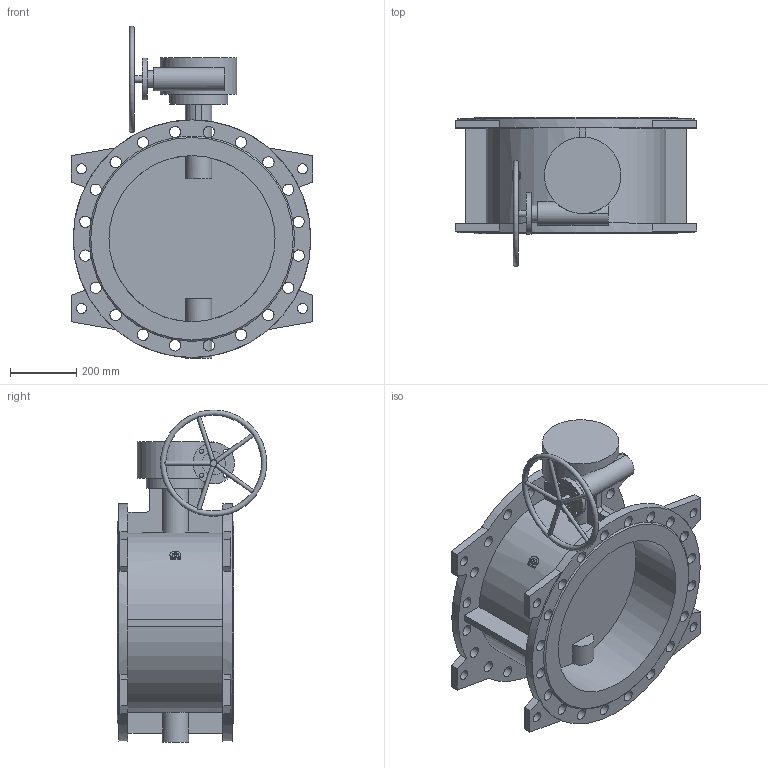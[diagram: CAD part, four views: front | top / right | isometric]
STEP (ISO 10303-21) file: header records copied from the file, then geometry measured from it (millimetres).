
FILE_DESCRIPTION(('STEP AP203'), '1');
FILE_NAME('Çàòâîð 023F.Z DN500 PN16_ìàõ', '', ('UNSPECIFIED'), ('UNSPECIFIED'), 'ASCON STEP Converter 1.6', 'ASCON Math Kernel', '');
FILE_SCHEMA(('CONFIG_CONTROL_DESIGN'));
Length unit declared in the file: millimetre
Bounding box: 726 x 449.71 x 998.99 mm (x, y, z)
Volume: 39907554.1 mm3; surface area: 2934274.4 mm2
Topology: 1 solids, 1 shells, 189 faces, 624 edges, 415 vertices
Faces by surface type: cylinder 96, plane 90, cone 2, torus 1
Full cylindrical faces by diameter (mm): 12 x9, 14 x4, 18 x4, 20 x2, 30 x8, 34 x40, 50 x1, 70 x2, 80 x1, 125 x1, 175 x1, 230 x1, 500 x2, 715 x2
Entity records: 12941 total; most frequent: CARTESIAN_POINT 5996, DIRECTION 1103, ORIENTED_EDGE 1078, EDGE_CURVE 539, AXIS2_PLACEMENT_3D 461, VERTEX_POINT 413, EDGE_LOOP 360, CIRCLE 272
